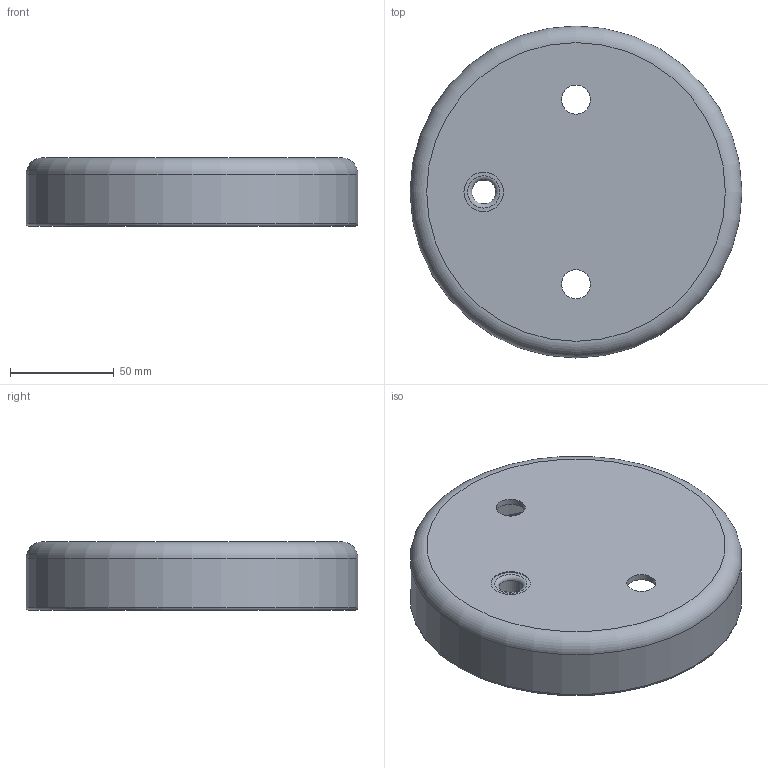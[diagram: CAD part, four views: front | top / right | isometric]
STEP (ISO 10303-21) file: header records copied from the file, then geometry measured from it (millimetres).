
FILE_DESCRIPTION(('Open CASCADE Model'),'2;1');
FILE_NAME('Open CASCADE Shape Model','2026-11-03T07:03:22',('Author'),( 'Open CASCADE'),'Open CASCADE STEP processor 7.8','Open CASCADE 7.8' ,'Unknown');
FILE_SCHEMA(('CONFIG_CONTROL_DESIGN'));
Length unit declared in the file: millimetre
Products named in the file (1): Open CASCADE STEP translator 7.8 5
Bounding box: 160 x 160 x 33 mm (x, y, z)
Volume: 99915.9 mm3; surface area: 68214.9 mm2
Topology: 1 solids, 1 shells, 16 faces, 30 edges, 18 vertices
Faces by surface type: cylinder 7, torus 5, plane 4
Full cylindrical faces by diameter (mm): 11.5 x1, 14 x2, 17.5 x1, 19 x1, 154 x1, 160 x1
Entity records: 869 total; most frequent: CARTESIAN_POINT 161, DIRECTION 141, ORIENTED_EDGE 60, PCURVE 60, DEFINITIONAL_REPRESENTATION 60, LINE 55, VECTOR 55, AXIS2_PLACEMENT_3D 40
